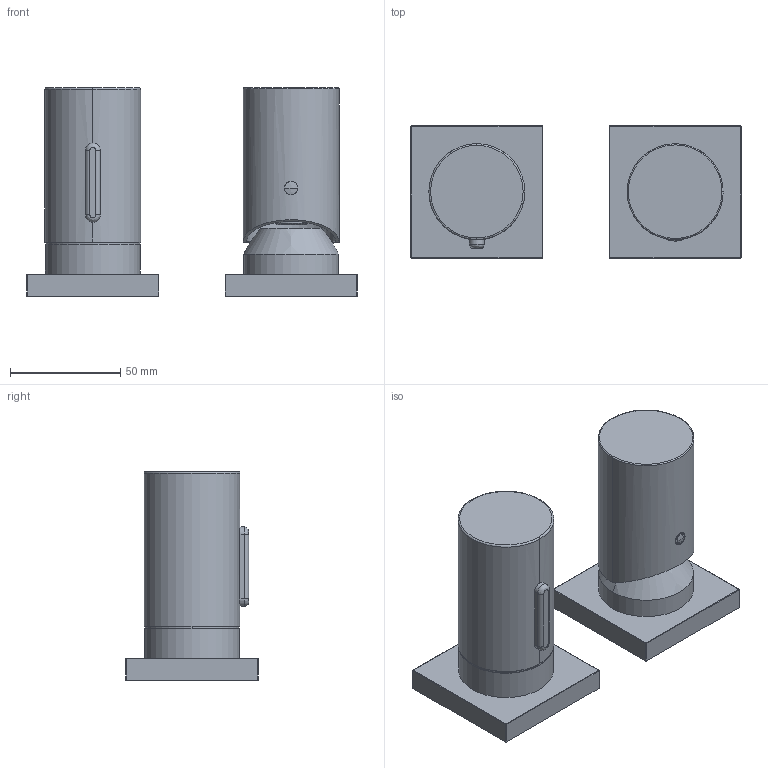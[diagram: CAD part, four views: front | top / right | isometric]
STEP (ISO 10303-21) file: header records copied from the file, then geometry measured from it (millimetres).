
FILE_DESCRIPTION(('STEP AP214'),'2;1');
FILE_NAME('DIS_3D_G789B+M687.stp','2025-05-06T09:12:30',(''),(''),'2015.2.119','THINKDESIGN','');
FILE_SCHEMA(('AUTOMOTIVE_DESIGN'));
Length unit declared in the file: millimetre
Products named in the file (1): top
Bounding box: 150 x 60 x 94.5 mm (x, y, z)
Volume: 247119.2 mm3; surface area: 66563.9 mm2
Topology: 8 solids, 8 shells, 218 faces, 532 edges, 347 vertices
Faces by surface type: plane 95, cylinder 65, bspline 58
Full cylindrical faces by diameter (mm): 43 x2
Entity records: 11349 total; most frequent: CARTESIAN_POINT 4446, ORIENTED_EDGE 1032, DIRECTION 963, EDGE_CURVE 516, AXIS2_PLACEMENT_3D 352, VERTEX_POINT 331, VECTOR 259, LINE 259
